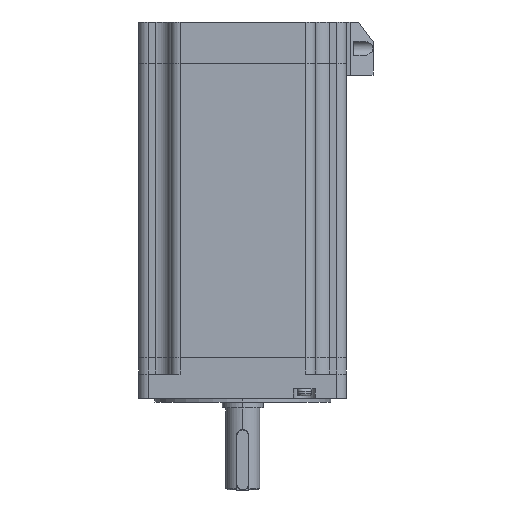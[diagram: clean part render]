
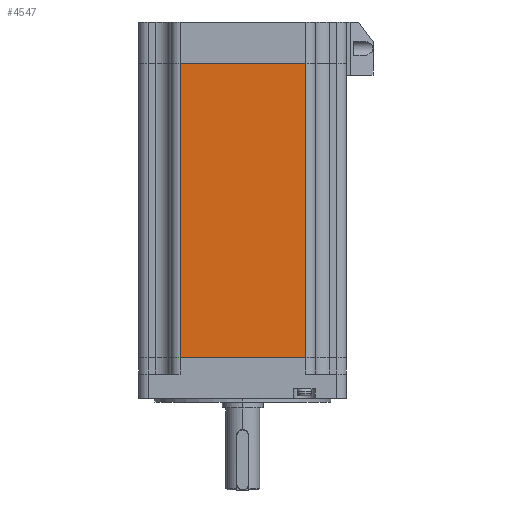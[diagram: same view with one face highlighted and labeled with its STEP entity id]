
A CAD part, left-side view. The second image highlights one B-rep face of the part: STEP entity #4547.
In plain terms, the highlighted planar face has unit normal (-1, 0, 0) as drawn and (1, 0, 0) by its records, which use the part's own axes.
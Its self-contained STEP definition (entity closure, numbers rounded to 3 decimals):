
#710 = DIRECTION ( 'NONE',  ( 0., 0., -1. ) ) ;
#711 = CARTESIAN_POINT ( 'NONE',  ( 43., -26., 118. ) ) ;
#784 = LINE ( 'NONE', #5641, #8778 ) ;
#1084 = VERTEX_POINT ( 'NONE', #8804 ) ;
#1428 = CARTESIAN_POINT ( 'NONE',  ( 43., -26., 0. ) ) ;
#1494 = DIRECTION ( 'NONE',  ( -1., 0., 0. ) ) ;
#1691 = CARTESIAN_POINT ( 'NONE',  ( 43., -26., 122. ) ) ;
#2881 = EDGE_CURVE ( 'NONE', #1084, #8029, #784, .T. ) ;
#3165 = LINE ( 'NONE', #6189, #4974 ) ;
#3400 = LINE ( 'NONE', #1428, #7532 ) ;
#4021 = EDGE_CURVE ( 'NONE', #7533, #1084, #3400, .T. ) ;
#4092 = EDGE_CURVE ( 'NONE', #9201, #7533, #3165, .T. ) ;
#4338 = AXIS2_PLACEMENT_3D ( 'NONE', #711, #1494, #6943 ) ;
#4547 = ADVANCED_FACE ( 'NONE', ( #7284 ), #5388, .F. ) ;
#4758 = EDGE_CURVE ( 'NONE', #8029, #9201, #9634, .T. ) ;
#4974 = VECTOR ( 'NONE', #710, 1000. ) ;
#5388 = PLANE ( 'NONE',  #4338 ) ;
#5596 = VECTOR ( 'NONE', #9642, 1000. ) ;
#5617 = ORIENTED_EDGE ( 'NONE', *, *, #4092, .F. ) ;
#5641 = CARTESIAN_POINT ( 'NONE',  ( 43., -26., 118. ) ) ;
#5681 = DIRECTION ( 'NONE',  ( 0., 0., 1. ) ) ;
#5696 = CARTESIAN_POINT ( 'NONE',  ( 43., 26., 0. ) ) ;
#5764 = ORIENTED_EDGE ( 'NONE', *, *, #2881, .F. ) ;
#5765 = ORIENTED_EDGE ( 'NONE', *, *, #4021, .F. ) ;
#5848 = CARTESIAN_POINT ( 'NONE',  ( 43., -26., 122. ) ) ;
#6189 = CARTESIAN_POINT ( 'NONE',  ( 43., 26., 118. ) ) ;
#6630 = EDGE_LOOP ( 'NONE', ( #5617, #8123, #5764, #5765 ) ) ;
#6884 = DIRECTION ( 'NONE',  ( 0., -1., 0. ) ) ;
#6943 = DIRECTION ( 'NONE',  ( 0., 0., 1. ) ) ;
#7284 = FACE_OUTER_BOUND ( 'NONE', #6630, .T. ) ;
#7532 = VECTOR ( 'NONE', #6884, 1000. ) ;
#7533 = VERTEX_POINT ( 'NONE', #5696 ) ;
#8029 = VERTEX_POINT ( 'NONE', #1691 ) ;
#8123 = ORIENTED_EDGE ( 'NONE', *, *, #4758, .F. ) ;
#8320 = CARTESIAN_POINT ( 'NONE',  ( 43., 26., 122. ) ) ;
#8778 = VECTOR ( 'NONE', #5681, 1000. ) ;
#8804 = CARTESIAN_POINT ( 'NONE',  ( 43., -26., 0. ) ) ;
#9201 = VERTEX_POINT ( 'NONE', #8320 ) ;
#9634 = LINE ( 'NONE', #5848, #5596 ) ;
#9642 = DIRECTION ( 'NONE',  ( 0., 1., 0. ) ) ;
